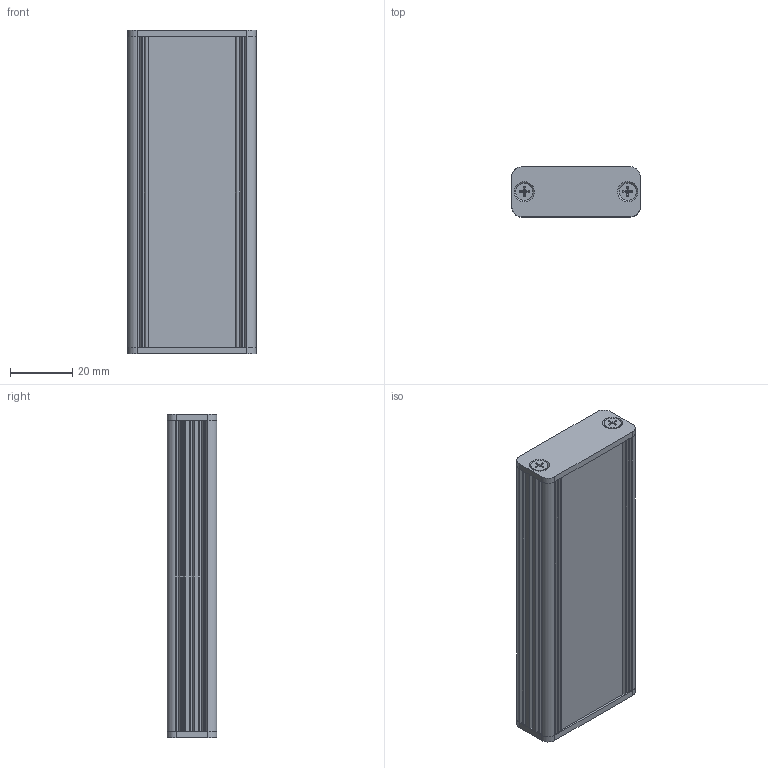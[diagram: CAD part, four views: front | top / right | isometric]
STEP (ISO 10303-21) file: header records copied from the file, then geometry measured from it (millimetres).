
FILE_DESCRIPTION((''),'2;1');
FILE_NAME('C:\Dokumente und Einstellungen\Lochen\Desktop\AKG\AKG_41_16_100.stp','2015-01-15T13:35:37',('Lochen'),(''),'Autodesk Inventor 2012','Autodesk Inventor 2012','');
FILE_SCHEMA(('AUTOMOTIVE_DESIGN { 1 0 10303 214 1 1 1 1 }'));
Length unit declared in the file: millimetre
Products named in the file (4): 001041799; 001032036; L0015SGD000002A; DIN EN ISO 7046-1 H M3 x 10 - 4.8 - H
Assembly tree (8 placements, depth 2):
  001041799
    001032036  x2
    L0015SGD000002A  x2
    DIN EN ISO 7046-1 H M3 x 10 - 4.8 - H  x4
Bounding box: 41.31 x 16.04 x 104 mm (x, y, z)
Volume: 22806 mm3; surface area: 30293.3 mm2
Topology: 8 solids, 8 shells, 352 faces, 980 edges, 644 vertices
Faces by surface type: cylinder 142, plane 138, cone 52, torus 20
Full cylindrical faces by diameter (mm): 2.693 x4, 3 x4, 3.4 x4, 5.5 x4
Entity records: 4940 total; most frequent: CARTESIAN_POINT 950, DIRECTION 850, ORIENTED_EDGE 796, EDGE_CURVE 398, AXIS2_PLACEMENT_3D 314, VERTEX_POINT 270, VECTOR 222, LINE 222
